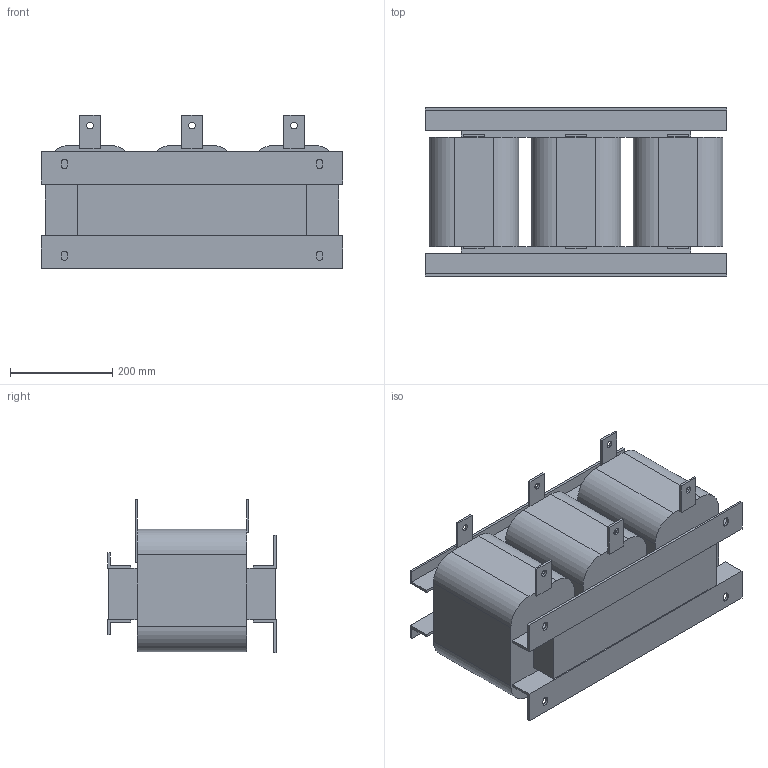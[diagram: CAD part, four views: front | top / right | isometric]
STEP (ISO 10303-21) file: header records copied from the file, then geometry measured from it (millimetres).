
FILE_DESCRIPTION(/* description */ (''),/* implementation_level */ '2;1');
FILE_NAME(/* name */ 'ACO-0330-T6-4.stp',/* time_stamp */ '2025-01-23T16:27:04+04:00',/* author */ ('Александр (огранич)'),/* organization */ (''),/* preprocessor_version */ 'ST-DEVELOPER v19.2',/* originating_system */ 'Autodesk Inventor 2024',/* authorisation */ '');
FILE_SCHEMA (('AUTOMOTIVE_DESIGN { 1 0 10303 214 3 1 1 }'));
Length unit declared in the file: millimetre
Products named in the file (1): ACO-0015-T4-4
Bounding box: 590 x 330 x 300 mm (x, y, z)
Volume: 32064147.9 mm3; surface area: 1180321 mm2
Topology: 1 solids, 1 shells, 136 faces, 378 edges, 240 vertices
Faces by surface type: plane 110, cylinder 26
Full cylindrical faces by diameter (mm): 13 x6
Entity records: 4357 total; most frequent: ORIENTED_EDGE 756, CARTESIAN_POINT 755, DIRECTION 704, EDGE_CURVE 378, LINE 326, VECTOR 326, VERTEX_POINT 240, AXIS2_PLACEMENT_3D 189
